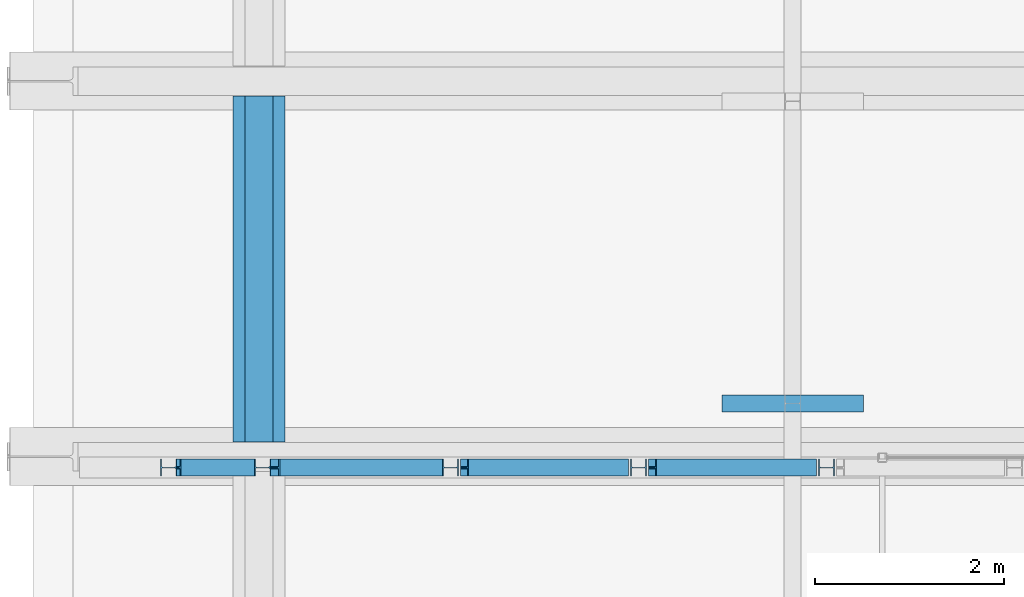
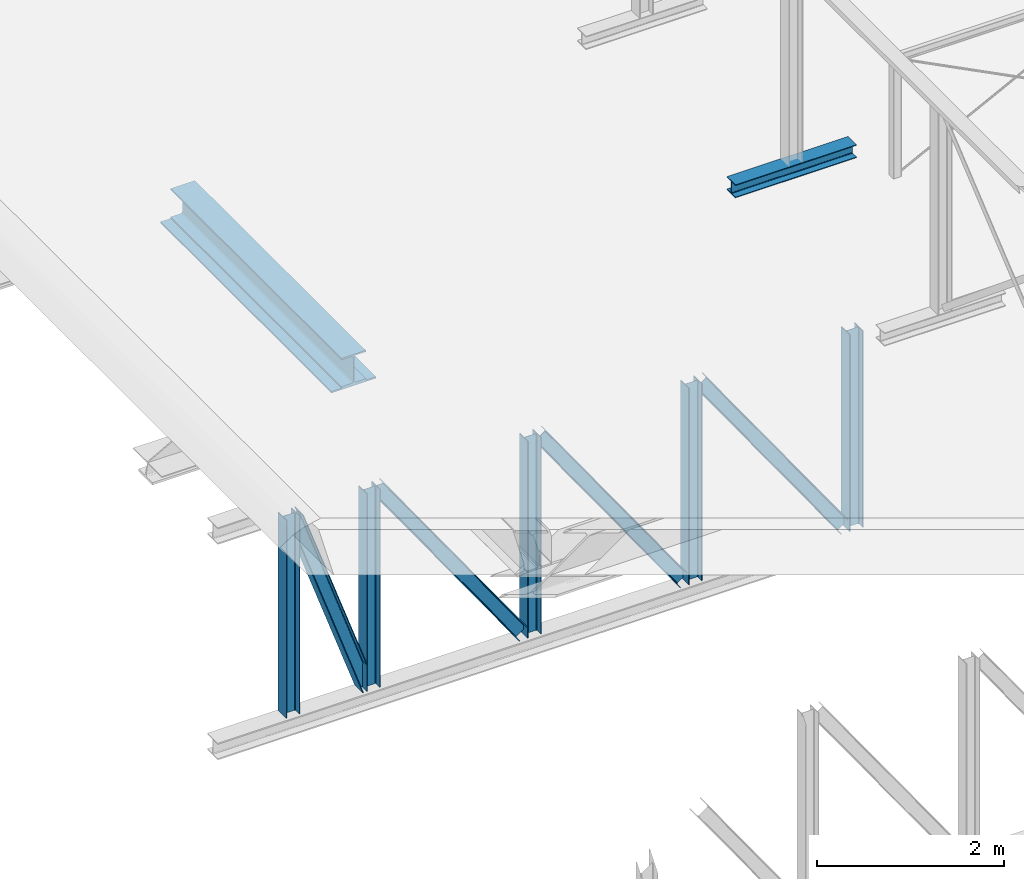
# One storey, part 16 of 50: 11 beams.
"""IFC2X3 building model written with IfcOpenShell, lengths in millimetres."""

from ifc_helpers import new_model, entity, si_unit, converted_unit, derived_unit, direction, frame, frame_2d, origin, place, context, subcontext, project, spatial, polyline, circle_curve, parameter, trimmed, segment, composite_curve, rectangle, i_section, outline, extrude, clip, halfspace, source, transform, mapped, material, material_list, type_object, type_shapes, element, save


model = new_model("IFC2X3")

# Units and contexts
model_context = context("Model", 3, precision=0.01, world=origin(), true_north=direction((6.12303176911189e-17, 1.0)))
body_context = subcontext(model_context, "Body", "Model", "MODEL_VIEW")
ifc_project = project(units=[si_unit("LENGTHUNIT", "METRE", prefix="MILLI"), si_unit("AREAUNIT", "SQUARE_METRE", prefix="MILLI"), si_unit("VOLUMEUNIT", "CUBIC_METRE"), converted_unit("PLANEANGLEUNIT", "DEGREE", entity("IfcRatioMeasure", 0.0174532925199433), si_unit("PLANEANGLEUNIT", "RADIAN"), dimensions=[0, 0, 0, 0, 0, 0, 0]), si_unit("MASSUNIT", "GRAM", prefix="KILO"), derived_unit("MASSDENSITYUNIT", [(si_unit("MASSUNIT", "GRAM", prefix="KILO"), 1), (si_unit("LENGTHUNIT", "METRE"), -3)]), derived_unit("MOMENTOFINERTIAUNIT", [(si_unit("LENGTHUNIT", "METRE"), 4)]), si_unit("TIMEUNIT", "SECOND"), si_unit("FREQUENCYUNIT", "HERTZ"), si_unit("THERMODYNAMICTEMPERATUREUNIT", "DEGREE_CELSIUS"), derived_unit("THERMALTRANSMITTANCEUNIT", [(si_unit("MASSUNIT", "GRAM", prefix="KILO"), 1), (si_unit("THERMODYNAMICTEMPERATUREUNIT", "KELVIN"), -1), (si_unit("TIMEUNIT", "SECOND"), -3)]), derived_unit("VOLUMETRICFLOWRATEUNIT", [(si_unit("LENGTHUNIT", "METRE"), 3), (si_unit("TIMEUNIT", "SECOND"), -1)]), si_unit("ELECTRICCURRENTUNIT", "AMPERE"), si_unit("ELECTRICVOLTAGEUNIT", "VOLT"), si_unit("POWERUNIT", "WATT"), si_unit("FORCEUNIT", "NEWTON", prefix="KILO"), si_unit("ILLUMINANCEUNIT", "LUX"), si_unit("LUMINOUSFLUXUNIT", "LUMEN"), si_unit("LUMINOUSINTENSITYUNIT", "CANDELA"), derived_unit("USERDEFINED", [(si_unit("MASSUNIT", "GRAM", prefix="KILO"), -1), (si_unit("LENGTHUNIT", "METRE"), -2), (si_unit("TIMEUNIT", "SECOND"), 3), (si_unit("LUMINOUSFLUXUNIT", "LUMEN"), 1)]), derived_unit("LINEARVELOCITYUNIT", [(si_unit("LENGTHUNIT", "METRE"), 1), (si_unit("TIMEUNIT", "SECOND"), -1)]), si_unit("PRESSUREUNIT", "PASCAL"), derived_unit("USERDEFINED", [(si_unit("LENGTHUNIT", "METRE"), -2), (si_unit("MASSUNIT", "GRAM", prefix="KILO"), 1), (si_unit("TIMEUNIT", "SECOND"), -2)]), derived_unit("LINEARFORCEUNIT", [(si_unit("MASSUNIT", "GRAM", prefix="KILO"), 1), (si_unit("LENGTHUNIT", "METRE"), 1), (si_unit("TIMEUNIT", "SECOND"), -2), (si_unit("LENGTHUNIT", "METRE"), -1)]), derived_unit("PLANARFORCEUNIT", [(si_unit("MASSUNIT", "GRAM", prefix="KILO"), 1), (si_unit("LENGTHUNIT", "METRE"), 1), (si_unit("TIMEUNIT", "SECOND"), -2), (si_unit("LENGTHUNIT", "METRE"), -2)])], contexts=[model_context])

# Site, building, storey
site_placement = place(None, origin())
site = spatial("IfcSite", under=ifc_project, at=site_placement, Name="Theater aan de Parade", CompositionType="ELEMENT")
building_placement = place(site_placement, origin())
building = spatial("IfcBuilding", under=site, at=building_placement, Name="Theater aan de Parade", CompositionType="ELEMENT")
storey_placement = place(building_placement, frame((0.0, 0.0, 15820.0)))
storey = spatial("IfcBuildingStorey", under=building, at=storey_placement, Name="04 vierde verdieping", CompositionType="ELEMENT", Elevation=15820.0)

# Beams
ifc_material_1 = material(Name="00_PBT_MAT_staal_S355")
beam_type_1 = type_object("IfcBeamType", Name="28_PBT_SF_staal_H-profiel:S355_HE180A", PredefinedType="NOTDEFINED")
beam_1_placement = place(storey_placement, frame((17139.8569884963, 29518.2922984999, -4340.0), z_axis=(1.0, 0.0, 0.0), x_axis=(0.0, 0.0, 1.0)))
element("IfcBeam", 1, at=beam_1_placement, inside=storey, type_object=beam_type_1, material=ifc_material_1, Name="28_PBT_SF_staal_H-profiel:S355_HE180A", ObjectType="28_PBT_SF_staal_H-profiel:S355_HE180A", context=body_context, shape_type="SweptSolid", body=[
    extrude(i_section(OverallWidth=179.999999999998, OverallDepth=171.0, WebThickness=6.00000000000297, FlangeThickness=9.49999999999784, FilletRadius=15.0000000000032, at=frame_2d((-2.16715534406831e-12, -2.16715534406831e-12), x_axis=(0.0, 1.0))), frame((122.7, 0.0, 0.0), z_axis=(1.0, 0.0, 0.0), x_axis=(0.0, 0.0, -1.0)), (0.0, 0.0, 1.0), 2587.30000000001),
])
beam_2_placement = place(storey_placement, frame((18135.8569884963, 29518.2922984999, -4340.0), z_axis=(1.0, 0.0, 0.0), x_axis=(0.0, 0.0, 1.0)))
element("IfcBeam", 2, at=beam_2_placement, inside=storey, type_object=beam_type_1, material=ifc_material_1, Name="28_PBT_SF_staal_H-profiel:S355_HE180A", ObjectType="28_PBT_SF_staal_H-profiel:S355_HE180A", context=body_context, shape_type="SweptSolid", body=[
    extrude(i_section(OverallWidth=179.999999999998, OverallDepth=171.0, WebThickness=6.00000000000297, FlangeThickness=9.49999999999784, FilletRadius=15.0000000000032, at=frame_2d((2.16715534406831e-12, 2.16715534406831e-12), x_axis=(0.0, 1.0))), frame((122.7, 0.0, 0.0), z_axis=(1.0, 0.0, 0.0), x_axis=(0.0, 0.0, -1.0)), (0.0, 0.0, 1.0), 2587.30000000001),
])
beam_3_placement = place(storey_placement, frame((20127.8569884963, 29518.2922984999, -4340.0), z_axis=(1.0, 0.0, 0.0), x_axis=(0.0, 0.0, 1.0)))
element("IfcBeam", 3, at=beam_3_placement, inside=storey, type_object=beam_type_1, material=ifc_material_1, Name="28_PBT_SF_staal_H-profiel:S355_HE180A", ObjectType="28_PBT_SF_staal_H-profiel:S355_HE180A", context=body_context, shape_type="SweptSolid", body=[
    extrude(i_section(OverallWidth=179.999999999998, OverallDepth=171.0, WebThickness=6.00000000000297, FlangeThickness=9.49999999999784, FilletRadius=15.0000000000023, at=frame_2d((2.16715534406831e-12, -2.16715534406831e-12), x_axis=(0.0, 1.0))), frame((122.700000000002, 0.0, 0.0), z_axis=(1.0, 0.0, 0.0), x_axis=(0.0, 0.0, -1.0)), (0.0, 0.0, 1.0), 2574.60000000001),
])
beam_4_placement = place(storey_placement, frame((22119.8569884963, 29518.2922984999, -4340.0), z_axis=(1.0, 0.0, 0.0), x_axis=(0.0, 0.0, 1.0)))
element("IfcBeam", 4, at=beam_4_placement, inside=storey, type_object=beam_type_1, material=ifc_material_1, Name="28_PBT_SF_staal_H-profiel:S355_HE180A", ObjectType="28_PBT_SF_staal_H-profiel:S355_HE180A", context=body_context, shape_type="SweptSolid", body=[
    extrude(i_section(OverallWidth=179.999999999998, OverallDepth=171.0, WebThickness=6.00000000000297, FlangeThickness=9.49999999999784, FilletRadius=15.0000000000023, at=frame_2d((2.16715534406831e-12, 2.16715534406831e-12), x_axis=(0.0, 1.0))), frame((122.699999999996, 0.0, 0.0), z_axis=(1.0, 0.0, 0.0), x_axis=(0.0, 0.0, -1.0)), (0.0, 0.0, 1.0), 2574.60000000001),
])
beam_5_placement = place(storey_placement, frame((24111.8569884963, 29518.2922984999, -4340.0), z_axis=(1.0, 0.0, 0.0), x_axis=(0.0, 0.0, 1.0)))
element("IfcBeam", 5, at=beam_5_placement, inside=storey, type_object=beam_type_1, material=ifc_material_1, Name="28_PBT_SF_staal_H-profiel:S355_HE180A", ObjectType="28_PBT_SF_staal_H-profiel:S355_HE180A", context=body_context, shape_type="SweptSolid", body=[
    extrude(i_section(OverallWidth=179.999999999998, OverallDepth=171.0, WebThickness=6.00000000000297, FlangeThickness=9.49999999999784, FilletRadius=15.0000000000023, at=frame_2d((2.16715534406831e-12, -2.16715534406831e-12), x_axis=(0.0, 1.0))), frame((122.7, 0.0, 0.0), z_axis=(1.0, 0.0, 0.0), x_axis=(0.0, 0.0, -1.0)), (0.0, 0.0, 1.0), 2574.60000000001),
])
beam_6_placement = place(storey_placement, frame((17139.8569884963, 29518.2922984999, -1520.0), z_axis=(0.942916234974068, 0.0, 0.333029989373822), x_axis=(0.333029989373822, 0.0, -0.942916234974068)))
element("IfcBeam", 6, at=beam_6_placement, inside=storey, type_object=beam_type_1, material=ifc_material_1, Name="28_PBT_SF_staal_H-profiel:S355_HE180A", ObjectType="28_PBT_SF_staal_H-profiel:S355_HE180A", context=body_context, shape_type="Clipping", body=[
    clip(clip(clip(extrude(outline(composite_curve([segment(polyline([(76.0, -90.0), (85.5000000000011, -90.0)]), True, "CONTINUOUS"), segment(polyline([(85.4999999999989, -90.0), (85.499999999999, 90.0)]), True, "CONTINUOUS"), segment(polyline([(85.499999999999, 90.0), (76.0, 90.0)]), True, "CONTINUOUS"), segment(polyline([(76.0, 90.0), (76.0, 18.0)]), True, "CONTINUOUS"), segment(trimmed(circle_curve(frame_2d((61.0, 18.0), x_axis=(1.0, 0.0)), 15.0000000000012), [parameter(270.000000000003)], [parameter(0.0)], True, "PARAMETER"), False, "CONTINUOUS"), segment(polyline([(61.0, 3.0), (-61.0, 3.0)]), True, "CONTINUOUS"), segment(trimmed(circle_curve(frame_2d((-61.0, 18.0), x_axis=(0.0, -1.0)), 15.000000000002), [parameter(270.000000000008)], [parameter(0.0)], True, "PARAMETER"), False, "CONTINUOUS"), segment(polyline([(-76.0, 18.0), (-76.0, 90.0)]), True, "CONTINUOUS"), segment(polyline([(-76.0, 90.0), (-85.4999999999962, 90.0)]), True, "CONTINUOUS"), segment(polyline([(-85.4999999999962, 90.0), (-85.4999999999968, -90.0)]), True, "CONTINUOUS"), segment(polyline([(-85.4999999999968, -90.0), (-76.0, -90.0)]), True, "CONTINUOUS"), segment(polyline([(-76.0, -90.0), (-76.0, -18.0)]), True, "CONTINUOUS"), segment(trimmed(circle_curve(frame_2d((-61.0, -18.0), x_axis=(-1.0, 0.0)), 15.0000000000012), [parameter(270.0)], [parameter(0.0)], True, "PARAMETER"), False, "CONTINUOUS"), segment(polyline([(-61.0, -3.0), (61.0, -3.0)]), True, "CONTINUOUS"), segment(trimmed(circle_curve(frame_2d((61.0, -18.0), x_axis=(0.0, 1.0)), 15.000000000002), [parameter(270.00000000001)], [parameter(0.0)], True, "PARAMETER"), False, "CONTINUOUS"), segment(polyline([(76.0, -18.0), (76.0, -90.0)]), True, "CONTINUOUS")], self_intersect=False)), frame((132.194849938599, 0.0, 0.0), z_axis=(1.0, 0.0, 0.0), x_axis=(0.0, 0.0, -1.0)), (0.0, 0.0, 1.0), 2698.96957454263), halfspace(frame((2571.80202468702, 90.0, -817.662452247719), z_axis=(-0.333029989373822, 0.0, -0.942916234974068), x_axis=(-0.942916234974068, 0.0, 0.333029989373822)), False)), halfspace(frame((2846.55176592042, -90.0, -39.7565583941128), z_axis=(0.333029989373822, 0.0, 0.942916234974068), x_axis=(-0.942916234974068, 0.0, 0.333029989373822)), False)), halfspace(frame((-211.325584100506, 110.0, -928.632057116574), z_axis=(-0.942916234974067, 0.0, 0.333029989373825), x_axis=(0.333029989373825, 0.0, 0.942916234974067)), False)),
])
beam_7_placement = place(storey_placement, frame((18135.8569884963, 29518.2922984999, -1520.0), z_axis=(0.816775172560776, 0.0, 0.576956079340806), x_axis=(0.576956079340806, 0.0, -0.816775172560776)))
element("IfcBeam", 7, at=beam_7_placement, inside=storey, type_object=beam_type_1, material=ifc_material_1, Name="28_PBT_SF_staal_H-profiel:S355_HE180A", ObjectType="28_PBT_SF_staal_H-profiel:S355_HE180A", context=body_context, shape_type="Clipping", body=[
    clip(clip(clip(extrude(outline(composite_curve([segment(polyline([(76.0, -90.0), (85.5000000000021, -90.0)]), True, "CONTINUOUS"), segment(polyline([(85.5000000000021, -90.0), (85.5000000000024, 90.0)]), True, "CONTINUOUS"), segment(polyline([(85.5000000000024, 90.0), (76.0, 90.0)]), True, "CONTINUOUS"), segment(polyline([(76.0, 90.0), (76.0, 18.0)]), True, "CONTINUOUS"), segment(trimmed(circle_curve(frame_2d((61.0, 18.0), x_axis=(1.0, 0.0)), 15.0000000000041), [parameter(270.000000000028)], [parameter(0.0)], True, "PARAMETER"), False, "CONTINUOUS"), segment(polyline([(61.0, 3.0), (-61.0, 3.0)]), True, "CONTINUOUS"), segment(trimmed(circle_curve(frame_2d((-61.0, 18.0), x_axis=(0.0, -1.0)), 15.0000000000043), [parameter(270.000000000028)], [parameter(0.0)], True, "PARAMETER"), False, "CONTINUOUS"), segment(polyline([(-76.0, 18.0), (-76.0, 90.0)]), True, "CONTINUOUS"), segment(polyline([(-76.0, 90.0), (-85.4999999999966, 90.0)]), True, "CONTINUOUS"), segment(polyline([(-85.4999999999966, 90.0), (-85.499999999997, -90.0)]), True, "CONTINUOUS"), segment(polyline([(-85.499999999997, -90.0), (-76.0, -90.0)]), True, "CONTINUOUS"), segment(polyline([(-76.0, -90.0), (-76.0, -18.0)]), True, "CONTINUOUS"), segment(trimmed(circle_curve(frame_2d((-61.0, -18.0), x_axis=(-1.0, 0.0)), 15.0000000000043), [parameter(270.000000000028)], [parameter(0.0)], True, "PARAMETER"), False, "CONTINUOUS"), segment(polyline([(-61.0, -3.0), (61.0, -3.0)]), True, "CONTINUOUS"), segment(trimmed(circle_curve(frame_2d((61.0, -18.0), x_axis=(0.0, 1.0)), 15.0000000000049), [parameter(270.000000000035)], [parameter(0.0)], True, "PARAMETER"), False, "CONTINUOUS"), segment(polyline([(76.0, -18.0), (76.0, -90.0)]), True, "CONTINUOUS")], self_intersect=False)), frame((139.175013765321, 0.0, 0.0), z_axis=(1.0, 0.0, 0.0), x_axis=(0.0, 0.0, -1.0)), (0.0, 0.0, 1.0), 3105.65575430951), halfspace(frame((2252.41741773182, 90.0, -1486.389355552), z_axis=(-0.576956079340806, 0.0, -0.816775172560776), x_axis=(-0.816775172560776, 0.0, 0.576956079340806)), False)), halfspace(frame((3303.05443821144, -90.0, 0.958233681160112), z_axis=(0.576956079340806, 0.0, 0.816775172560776), x_axis=(-0.816775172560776, 0.0, 0.576956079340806)), False)), halfspace(frame((-1030.60343709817, 110.0, -1649.6425538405), z_axis=(-0.816775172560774, 0.0, 0.576956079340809), x_axis=(0.576956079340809, 0.0, 0.816775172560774)), False)),
])
beam_8_placement = place(storey_placement, frame((20127.8569884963, 29518.2922984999, -1520.0), z_axis=(0.816775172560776, 0.0, 0.576956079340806), x_axis=(0.576956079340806, 0.0, -0.816775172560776)))
element("IfcBeam", 8, at=beam_8_placement, inside=storey, type_object=beam_type_1, material=ifc_material_1, Name="28_PBT_SF_staal_H-profiel:S355_HE180A", ObjectType="28_PBT_SF_staal_H-profiel:S355_HE180A", context=body_context, shape_type="Clipping", body=[
    clip(clip(extrude(outline(composite_curve([segment(polyline([(76.0, -90.0), (85.4999999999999, -90.0)]), True, "CONTINUOUS"), segment(polyline([(85.4999999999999, -90.0), (85.5000000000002, 90.0)]), True, "CONTINUOUS"), segment(polyline([(85.5000000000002, 90.0), (76.0, 90.0)]), True, "CONTINUOUS"), segment(polyline([(76.0, 90.0), (76.0, 18.0)]), True, "CONTINUOUS"), segment(trimmed(circle_curve(frame_2d((61.0, 18.0), x_axis=(1.0, 0.0)), 14.9999999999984), [parameter(269.999999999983)], [parameter(0.0)], True, "PARAMETER"), False, "CONTINUOUS"), segment(polyline([(61.0, 3.0), (-61.0, 3.0)]), True, "CONTINUOUS"), segment(trimmed(circle_curve(frame_2d((-61.0, 18.0), x_axis=(0.0, -1.0)), 14.9999999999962), [parameter(269.999999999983)], [parameter(0.0)], True, "PARAMETER"), False, "CONTINUOUS"), segment(polyline([(-76.0, 18.0), (-76.0, 90.0)]), True, "CONTINUOUS"), segment(polyline([(-76.0, 90.0), (-85.4999999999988, 90.0)]), True, "CONTINUOUS"), segment(polyline([(-85.4999999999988, 90.0), (-85.4999999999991, -90.0)]), True, "CONTINUOUS"), segment(polyline([(-85.4999999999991, -90.0), (-76.0, -90.0)]), True, "CONTINUOUS"), segment(polyline([(-76.0, -90.0), (-76.0, -18.0)]), True, "CONTINUOUS"), segment(trimmed(circle_curve(frame_2d((-61.0, -18.0), x_axis=(-1.0, 0.0)), 14.9999999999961), [parameter(269.999999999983)], [parameter(0.0)], True, "PARAMETER"), False, "CONTINUOUS"), segment(polyline([(-61.0, -3.0), (61.0, -3.0)]), True, "CONTINUOUS"), segment(trimmed(circle_curve(frame_2d((61.0, -18.0), x_axis=(0.0, 1.0)), 14.9999999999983), [parameter(269.999999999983)], [parameter(0.0)], True, "PARAMETER"), False, "CONTINUOUS"), segment(polyline([(76.0, -18.0), (76.0, -90.0)]), True, "CONTINUOUS")], self_intersect=False)), frame((207.771728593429, 0.0, 0.0), z_axis=(1.0, 0.0, 0.0), x_axis=(0.0, 0.0, -1.0)), (0.0, 0.0, 1.0), 3037.0590394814), halfspace(frame((2280.29204276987, 110.0, -1481.59297368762), z_axis=(-0.576956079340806, 0.0, -0.816775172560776), x_axis=(-0.816775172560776, 0.0, 0.576956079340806)), False)), halfspace(frame((3307.85082007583, -110.0, -26.9163913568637), z_axis=(0.576956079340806, 0.0, 0.816775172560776), x_axis=(-0.816775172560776, 0.0, 0.576956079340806)), False)),
])
beam_9_placement = place(storey_placement, frame((22119.8569884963, 29518.2922984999, -1520.0), z_axis=(0.816775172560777, 0.0, 0.576956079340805), x_axis=(0.576956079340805, 0.0, -0.816775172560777)))
element("IfcBeam", 9, at=beam_9_placement, inside=storey, type_object=beam_type_1, material=ifc_material_1, Name="28_PBT_SF_staal_H-profiel:S355_HE180A", ObjectType="28_PBT_SF_staal_H-profiel:S355_HE180A", context=body_context, shape_type="Clipping", body=[
    clip(clip(extrude(outline(composite_curve([segment(polyline([(76.0, -90.0), (85.5000000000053, -90.0)]), True, "CONTINUOUS"), segment(polyline([(85.4999999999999, -90.0), (85.5000000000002, 90.0)]), True, "CONTINUOUS"), segment(polyline([(85.5000000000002, 90.0), (76.0, 90.0)]), True, "CONTINUOUS"), segment(polyline([(76.0, 90.0), (76.0, 18.0)]), True, "CONTINUOUS"), segment(trimmed(circle_curve(frame_2d((61.0, 18.0), x_axis=(1.0, 0.0)), 14.9999999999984), [parameter(269.999999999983)], [parameter(0.0)], True, "PARAMETER"), False, "CONTINUOUS"), segment(polyline([(61.0, 3.0), (-61.0, 3.0)]), True, "CONTINUOUS"), segment(trimmed(circle_curve(frame_2d((-61.0, 18.0), x_axis=(0.0, -1.0)), 14.9999999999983), [parameter(269.999999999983)], [parameter(0.0)], True, "PARAMETER"), False, "CONTINUOUS"), segment(polyline([(-76.0, 18.0), (-76.0, 90.0)]), True, "CONTINUOUS"), segment(polyline([(-76.0, 90.0), (-85.4999999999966, 90.0)]), True, "CONTINUOUS"), segment(polyline([(-85.4999999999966, 90.0), (-85.499999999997, -90.0)]), True, "CONTINUOUS"), segment(polyline([(-85.499999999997, -90.0), (-76.0, -90.0)]), True, "CONTINUOUS"), segment(polyline([(-76.0, -90.0), (-76.0, -18.0)]), True, "CONTINUOUS"), segment(trimmed(circle_curve(frame_2d((-61.0, -18.0), x_axis=(-1.0, 0.0)), 14.9999999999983), [parameter(269.999999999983)], [parameter(0.0)], True, "PARAMETER"), False, "CONTINUOUS"), segment(polyline([(-61.0, -3.0), (61.0, -3.0)]), True, "CONTINUOUS"), segment(trimmed(circle_curve(frame_2d((61.0, -18.0), x_axis=(0.0, 1.0)), 14.9999999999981), [parameter(269.999999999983)], [parameter(0.0)], True, "PARAMETER"), False, "CONTINUOUS"), segment(polyline([(76.0, -18.0), (76.0, -90.0)]), True, "CONTINUOUS")], self_intersect=False)), frame((207.771728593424, 0.0, 0.0), z_axis=(1.0, 0.0, 0.0), x_axis=(0.0, 0.0, -1.0)), (0.0, 0.0, 1.0), 3037.0590394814), halfspace(frame((2280.29204276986, 110.0, -1481.5929736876), z_axis=(-0.576956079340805, 0.0, -0.816775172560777), x_axis=(-0.816775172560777, 0.0, 0.576956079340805)), False)), halfspace(frame((3307.85082007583, -110.0, -26.9163913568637), z_axis=(0.576956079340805, 0.0, 0.816775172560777), x_axis=(-0.816775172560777, 0.0, 0.576956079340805)), False)),
])
beam_10_placement = place(storey_placement, frame((24503.8569986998, 30195.8337248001, 0.0), z_axis=(0.0, 0.0, 1.0), x_axis=(-1.0, 0.0, 0.0)))
element("IfcBeam", 10, at=beam_10_placement, inside=storey, type_object=beam_type_1, material=ifc_material_1, Name="28_PBT_SF_staal_H-profiel:S355_HE180A", ObjectType="28_PBT_SF_staal_H-profiel:S355_HE180A", context=body_context, shape_type="SweptSolid", body=[
    extrude(outline(composite_curve([segment(polyline([(76.0, -90.0), (85.5000000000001, -90.0)]), True, "CONTINUOUS"), segment(polyline([(85.5000000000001, -90.0), (85.5000000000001, 90.0)]), True, "CONTINUOUS"), segment(polyline([(85.5000000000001, 90.0), (76.0, 90.0)]), True, "CONTINUOUS"), segment(polyline([(76.0, 90.0), (76.0, 18.0)]), True, "CONTINUOUS"), segment(trimmed(circle_curve(frame_2d((61.0, 18.0), x_axis=(1.0, 0.0)), 15.0000000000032), [parameter(270.000000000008)], [parameter(0.0)], True, "PARAMETER"), False, "CONTINUOUS"), segment(polyline([(61.0, 3.0), (-61.0, 3.0)]), True, "CONTINUOUS"), segment(trimmed(circle_curve(frame_2d((-61.0, 18.0), x_axis=(0.0, -1.0)), 15.0000000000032), [parameter(270.000000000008)], [parameter(0.0)], True, "PARAMETER"), False, "CONTINUOUS"), segment(polyline([(-76.0, 18.0), (-76.0, 90.0)]), True, "CONTINUOUS"), segment(polyline([(-76.0, 90.0), (-85.5000000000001, 90.0)]), True, "CONTINUOUS"), segment(polyline([(-85.5000000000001, 90.0), (-85.5000000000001, -90.0)]), True, "CONTINUOUS"), segment(polyline([(-85.4999999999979, -90.0), (-76.0, -90.0)]), True, "CONTINUOUS"), segment(polyline([(-76.0, -90.0), (-76.0, -18.0)]), True, "CONTINUOUS"), segment(trimmed(circle_curve(frame_2d((-61.0, -18.0), x_axis=(-1.0, 0.0)), 15.0000000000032), [parameter(270.000000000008)], [parameter(0.0)], True, "PARAMETER"), False, "CONTINUOUS"), segment(polyline([(-61.0, -3.0), (61.0, -3.0)]), True, "CONTINUOUS"), segment(trimmed(circle_curve(frame_2d((61.0, -18.0), x_axis=(0.0, 1.0)), 15.0000000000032), [parameter(270.000000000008)], [parameter(0.0)], True, "PARAMETER"), False, "CONTINUOUS"), segment(polyline([(76.0, -18.0), (76.0, -90.0)]), True, "CONTINUOUS")], self_intersect=False)), frame((0.0, 0.0, 184.499999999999), z_axis=(1.0, 0.0, 0.0), x_axis=(0.0, 0.0, -1.0)), (0.0, 0.0, 1.0), 1500.00000000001),
])
ifc_material_2 = material(Name="00_PBT_MAT_Lucht")
ifc_material_list = material_list([ifc_material_1, ifc_material_2])
beam_type_2 = type_object("IfcBeamType", Name="28_PBT_SF_staal_H-profiel_met_onderplaat (void):S355_HE400A + onderplaat d=20", PredefinedType="BEAM", material=ifc_material_list)
shared_shape = source(origin(), body_context, "Body", "SweptSolid", [
    extrude(i_section(OverallWidth=299.999999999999, OverallDepth=390.0, WebThickness=10.9999999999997, FlangeThickness=19.0, FilletRadius=27.0000000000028, at=frame_2d((-2.17426077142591e-12, -1.08002495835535e-12), x_axis=(1.0, 0.0))), frame((18098.3570025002, 29791.9774014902, 15585.0), z_axis=(0.0, 1.0, 0.0), x_axis=(-1.0, 0.0, 0.0)), (0.0, 0.0, 1.0), 3664.50000000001),
    extrude(rectangle(XDim=19.9999999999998, YDim=550.000000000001, at=frame_2d((0.0, -1.08268949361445e-12), x_axis=(0.0, 1.0))), frame((18098.3570025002, 29791.9774014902, 15380.0), z_axis=(0.0, 1.0, 0.0), x_axis=(-1.0, 0.0, 0.0)), (0.0, 0.0, 1.0), 3664.50000000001),
])
type_shapes(beam_type_2, [shared_shape])
beam_11_placement = place(storey_placement, frame((0.0, 0.0, -15820.0)))
element("IfcBeam", 11, at=beam_11_placement, inside=storey, type_object=beam_type_2, material=ifc_material_1, Name="28_PBT_SF_staal_H-profiel_met_onderplaat (void):S355_HE400A + onderplaat d=20", ObjectType="28_PBT_SF_staal_H-profiel_met_onderplaat (void):S355_HE400A + onderplaat d=20", context=body_context, shape_type="MappedRepresentation", body=[
    mapped(shared_shape, transform((0.0, 0.0, 0.0), scale=1.0)),
])

save(model, "model.ifc")
